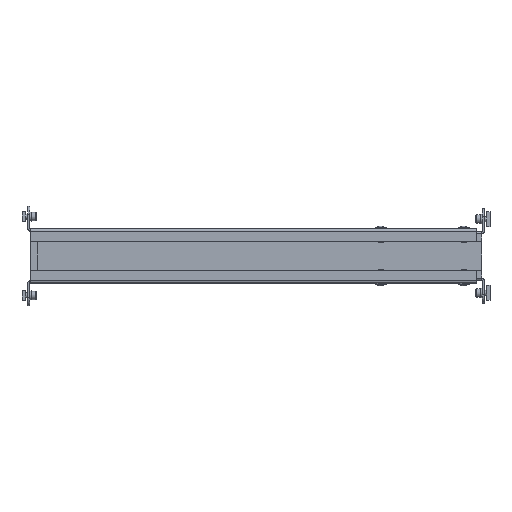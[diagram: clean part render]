
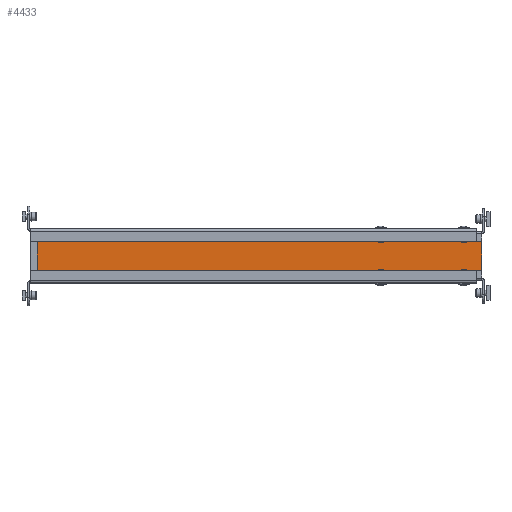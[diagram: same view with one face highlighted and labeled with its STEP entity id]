
A CAD part, top view. The second image highlights one B-rep face of the part: STEP entity #4433.
In plain terms, the highlighted planar face has unit normal (0, 0, 1).
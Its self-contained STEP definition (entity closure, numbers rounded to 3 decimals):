
#310=PLANE('',#5052);
#610=LINE('',#7267,#976);
#614=LINE('',#7283,#980);
#619=LINE('',#7300,#985);
#620=LINE('',#7302,#986);
#976=VECTOR('',#6003,1000.);
#980=VECTOR('',#6019,1000.);
#985=VECTOR('',#6036,1000.);
#986=VECTOR('',#6039,1000.);
#1746=ORIENTED_EDGE('',*,*,#2694,.F.);
#1747=ORIENTED_EDGE('',*,*,#2712,.T.);
#1748=ORIENTED_EDGE('',*,*,#2702,.F.);
#1749=ORIENTED_EDGE('',*,*,#2711,.T.);
#2694=EDGE_CURVE('',#3190,#3191,#610,.T.);
#2702=EDGE_CURVE('',#3196,#3197,#614,.T.);
#2711=EDGE_CURVE('',#3196,#3191,#619,.T.);
#2712=EDGE_CURVE('',#3190,#3197,#620,.T.);
#3190=VERTEX_POINT('',#7268);
#3191=VERTEX_POINT('',#7269);
#3196=VERTEX_POINT('',#7284);
#3197=VERTEX_POINT('',#7285);
#3701=EDGE_LOOP('',(#1746,#1747,#1748,#1749));
#4037=FACE_BOUND('',#3701,.T.);
#4433=ADVANCED_FACE('',(#4037),#310,.F.);
#5052=AXIS2_PLACEMENT_3D('',#7301,#6037,#6038);
#6003=DIRECTION('',(-1.,0.,0.));
#6019=DIRECTION('',(1.,0.,0.));
#6036=DIRECTION('',(0.,-1.,0.));
#6037=DIRECTION('',(0.,0.,-1.));
#6038=DIRECTION('',(-1.,0.,0.));
#6039=DIRECTION('',(0.,1.,0.));
#7267=CARTESIAN_POINT('',(535.7,-26.9,0.));
#7268=CARTESIAN_POINT('',(535.7,-26.9,0.));
#7269=CARTESIAN_POINT('',(0.,-26.9,0.));
#7283=CARTESIAN_POINT('',(0.,26.9,0.));
#7284=CARTESIAN_POINT('',(0.,26.9,0.));
#7285=CARTESIAN_POINT('',(535.7,26.9,0.));
#7300=CARTESIAN_POINT('',(0.,27.,0.));
#7301=CARTESIAN_POINT('',(0.,0.,0.));
#7302=CARTESIAN_POINT('',(535.7,0.,0.));
